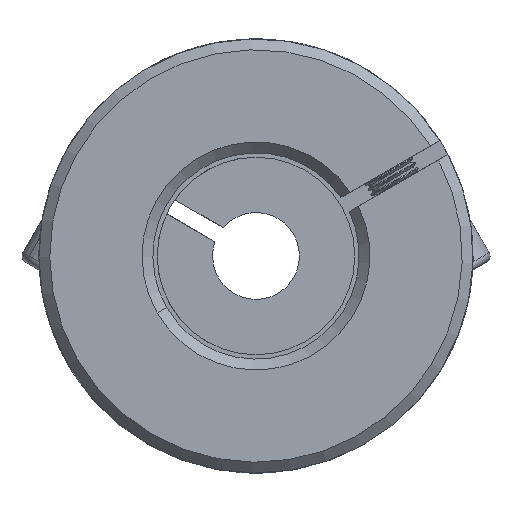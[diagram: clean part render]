
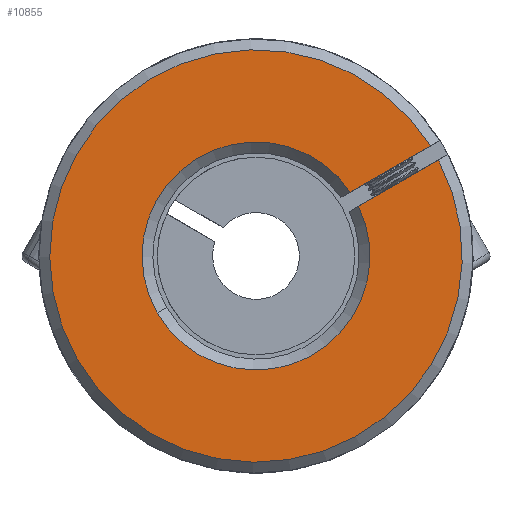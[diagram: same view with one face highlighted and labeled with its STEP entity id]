
A CAD part, front view. The second image highlights one B-rep face of the part: STEP entity #10855.
In plain terms, the highlighted planar face has unit normal (0, -1, 0).
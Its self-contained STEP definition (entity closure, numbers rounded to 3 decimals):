
#281 = AXIS2_PLACEMENT_3D ( 'NONE', #9671, #4227, #6372 ) ;
#695 = CARTESIAN_POINT ( 'NONE',  ( 52.98, -31.239, 45.743 ) ) ;
#1263 = CARTESIAN_POINT ( 'NONE',  ( -1.447, -31.239, 40. ) ) ;
#1455 = EDGE_CURVE ( 'NONE', #12044, #4518, #3382, .T. ) ;
#1565 = CARTESIAN_POINT ( 'NONE',  ( 7.997, -31.239, 44.59 ) ) ;
#1788 = DIRECTION ( 'NONE',  ( 0.5, 0., -0.866 ) ) ;
#1879 = VECTOR ( 'NONE', #11372, 1000. ) ;
#2319 = VERTEX_POINT ( 'NONE', #13338 ) ;
#2818 = ORIENTED_EDGE ( 'NONE', *, *, #12979, .T. ) ;
#2999 = EDGE_CURVE ( 'NONE', #11764, #2319, #8557, .T. ) ;
#3003 = LINE ( 'NONE', #7448, #12410 ) ;
#3382 = LINE ( 'NONE', #9184, #1879 ) ;
#3516 = ORIENTED_EDGE ( 'NONE', *, *, #13375, .T. ) ;
#4030 = CARTESIAN_POINT ( 'NONE',  ( 15.367, -31.239, 48.848 ) ) ;
#4227 = DIRECTION ( 'NONE',  ( 0., 1., 0. ) ) ;
#4401 = EDGE_LOOP ( 'NONE', ( #5266, #7917, #2818, #11194, #3516 ) ) ;
#4518 = VERTEX_POINT ( 'NONE', #10002 ) ;
#4752 = CIRCLE ( 'NONE', #11151, 10.5 ) ;
#4946 = PLANE ( 'NONE',  #5689 ) ;
#5214 = EDGE_CURVE ( 'NONE', #11764, #9302, #3003, .T. ) ;
#5266 = ORIENTED_EDGE ( 'NONE', *, *, #5214, .F. ) ;
#5689 = AXIS2_PLACEMENT_3D ( 'NONE', #695, #12336, #10246 ) ;
#6056 = DIRECTION ( 'NONE',  ( 0., 1., 0. ) ) ;
#6259 = AXIS2_PLACEMENT_3D ( 'NONE', #1263, #9828, #10929 ) ;
#6372 = DIRECTION ( 'NONE',  ( 0.5, 0., -0.866 ) ) ;
#6481 = CARTESIAN_POINT ( 'NONE',  ( 14.616, -31.239, 50.147 ) ) ;
#7448 = CARTESIAN_POINT ( 'NONE',  ( 7.128, -31.239, 44.088 ) ) ;
#7917 = ORIENTED_EDGE ( 'NONE', *, *, #2999, .T. ) ;
#8557 = CIRCLE ( 'NONE', #281, 10.5 ) ;
#9184 = CARTESIAN_POINT ( 'NONE',  ( 6.378, -31.239, 45.387 ) ) ;
#9302 = VERTEX_POINT ( 'NONE', #4030 ) ;
#9513 = DIRECTION ( 'NONE',  ( 0.866, 0., 0.5 ) ) ;
#9671 = CARTESIAN_POINT ( 'NONE',  ( -1.447, -31.239, 40. ) ) ;
#9828 = DIRECTION ( 'NONE',  ( 0., -1., 0. ) ) ;
#10002 = CARTESIAN_POINT ( 'NONE',  ( 7.246, -31.239, 45.889 ) ) ;
#10246 = DIRECTION ( 'NONE',  ( 0.5, 0., -0.866 ) ) ;
#10855 = ADVANCED_FACE ( 'NONE', ( #12980 ), #4946, .F. ) ;
#10929 = DIRECTION ( 'NONE',  ( 0.5, 0., -0.866 ) ) ;
#11151 = AXIS2_PLACEMENT_3D ( 'NONE', #11361, #6056, #1788 ) ;
#11194 = ORIENTED_EDGE ( 'NONE', *, *, #1455, .F. ) ;
#11361 = CARTESIAN_POINT ( 'NONE',  ( -1.447, -31.239, 40. ) ) ;
#11372 = DIRECTION ( 'NONE',  ( -0.866, 0., -0.5 ) ) ;
#11764 = VERTEX_POINT ( 'NONE', #1565 ) ;
#12021 = CIRCLE ( 'NONE', #6259, 19. ) ;
#12044 = VERTEX_POINT ( 'NONE', #6481 ) ;
#12336 = DIRECTION ( 'NONE',  ( 0., 1., 0. ) ) ;
#12410 = VECTOR ( 'NONE', #9513, 1000. ) ;
#12979 = EDGE_CURVE ( 'NONE', #2319, #4518, #4752, .T. ) ;
#12980 = FACE_OUTER_BOUND ( 'NONE', #4401, .T. ) ;
#13338 = CARTESIAN_POINT ( 'NONE',  ( -10.539, -31.239, 34.747 ) ) ;
#13375 = EDGE_CURVE ( 'NONE', #12044, #9302, #12021, .T. ) ;
